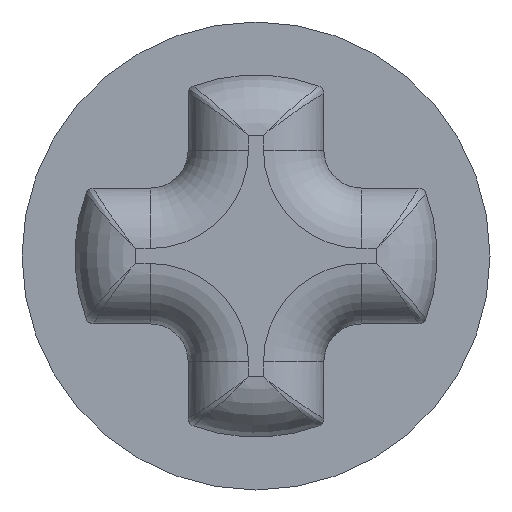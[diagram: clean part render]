
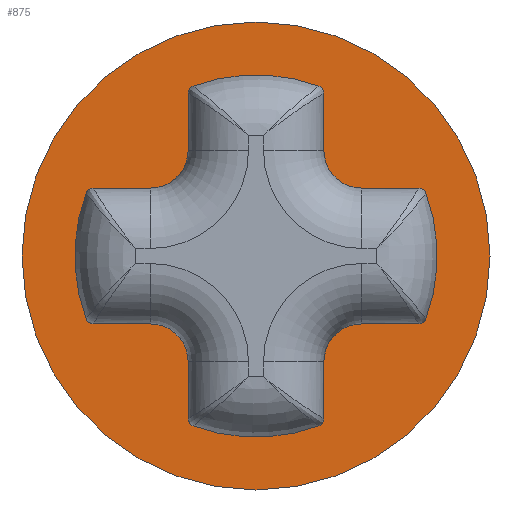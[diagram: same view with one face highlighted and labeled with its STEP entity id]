
A CAD part, left-side view. The second image highlights one B-rep face of the part: STEP entity #875.
In plain terms, the highlighted planar face has unit normal (-1, 0, 0).
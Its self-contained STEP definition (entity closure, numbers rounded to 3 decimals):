
#68=PLANE('',#990);
#73=LINE('',#3573,#121);
#77=LINE('',#3582,#125);
#83=LINE('',#3600,#131);
#87=LINE('',#3609,#135);
#93=LINE('',#3627,#141);
#97=LINE('',#3636,#145);
#103=LINE('',#3654,#151);
#107=LINE('',#3663,#155);
#121=VECTOR('',#1013,1000.);
#125=VECTOR('',#1019,1000.);
#131=VECTOR('',#1033,1000.);
#135=VECTOR('',#1039,1000.);
#141=VECTOR('',#1053,1000.);
#145=VECTOR('',#1059,1000.);
#151=VECTOR('',#1073,1000.);
#155=VECTOR('',#1079,1000.);
#168=CIRCLE('',#897,2.4);
#170=CIRCLE('',#902,2.4);
#172=CIRCLE('',#907,2.4);
#174=CIRCLE('',#912,2.4);
#184=CIRCLE('',#926,0.5);
#186=CIRCLE('',#929,0.5);
#188=CIRCLE('',#932,0.5);
#190=CIRCLE('',#935,0.5);
#192=CIRCLE('',#938,0.1);
#194=CIRCLE('',#941,0.1);
#196=CIRCLE('',#944,0.1);
#198=CIRCLE('',#947,0.1);
#200=CIRCLE('',#950,0.1);
#202=CIRCLE('',#953,0.1);
#204=CIRCLE('',#956,0.1);
#206=CIRCLE('',#959,0.1);
#217=CIRCLE('',#987,3.1);
#431=ORIENTED_EDGE('',*,*,#505,.F.);
#432=ORIENTED_EDGE('',*,*,#554,.T.);
#433=ORIENTED_EDGE('',*,*,#501,.F.);
#434=ORIENTED_EDGE('',*,*,#556,.T.);
#435=ORIENTED_EDGE('',*,*,#497,.F.);
#436=ORIENTED_EDGE('',*,*,#546,.F.);
#437=ORIENTED_EDGE('',*,*,#493,.F.);
#438=ORIENTED_EDGE('',*,*,#558,.T.);
#439=ORIENTED_EDGE('',*,*,#489,.F.);
#440=ORIENTED_EDGE('',*,*,#560,.T.);
#441=ORIENTED_EDGE('',*,*,#485,.F.);
#442=ORIENTED_EDGE('',*,*,#544,.F.);
#443=ORIENTED_EDGE('',*,*,#481,.F.);
#444=ORIENTED_EDGE('',*,*,#562,.T.);
#445=ORIENTED_EDGE('',*,*,#477,.F.);
#446=ORIENTED_EDGE('',*,*,#548,.T.);
#447=ORIENTED_EDGE('',*,*,#521,.F.);
#448=ORIENTED_EDGE('',*,*,#542,.F.);
#449=ORIENTED_EDGE('',*,*,#517,.F.);
#450=ORIENTED_EDGE('',*,*,#550,.T.);
#451=ORIENTED_EDGE('',*,*,#513,.F.);
#452=ORIENTED_EDGE('',*,*,#552,.T.);
#453=ORIENTED_EDGE('',*,*,#509,.F.);
#454=ORIENTED_EDGE('',*,*,#540,.F.);
#455=ORIENTED_EDGE('',*,*,#589,.T.);
#477=EDGE_CURVE('',#603,#604,#168,.T.);
#481=EDGE_CURVE('',#607,#608,#73,.T.);
#485=EDGE_CURVE('',#611,#612,#77,.T.);
#489=EDGE_CURVE('',#615,#616,#170,.T.);
#493=EDGE_CURVE('',#619,#620,#83,.T.);
#497=EDGE_CURVE('',#623,#624,#87,.T.);
#501=EDGE_CURVE('',#627,#628,#172,.T.);
#505=EDGE_CURVE('',#631,#632,#93,.T.);
#509=EDGE_CURVE('',#635,#636,#97,.T.);
#513=EDGE_CURVE('',#639,#640,#174,.T.);
#517=EDGE_CURVE('',#643,#644,#103,.T.);
#521=EDGE_CURVE('',#647,#648,#107,.T.);
#540=EDGE_CURVE('',#632,#635,#184,.F.);
#542=EDGE_CURVE('',#644,#647,#186,.F.);
#544=EDGE_CURVE('',#608,#611,#188,.F.);
#546=EDGE_CURVE('',#620,#623,#190,.F.);
#548=EDGE_CURVE('',#603,#648,#192,.F.);
#550=EDGE_CURVE('',#643,#640,#194,.F.);
#552=EDGE_CURVE('',#639,#636,#196,.F.);
#554=EDGE_CURVE('',#631,#628,#198,.F.);
#556=EDGE_CURVE('',#627,#624,#200,.F.);
#558=EDGE_CURVE('',#619,#616,#202,.F.);
#560=EDGE_CURVE('',#615,#612,#204,.F.);
#562=EDGE_CURVE('',#607,#604,#206,.F.);
#589=EDGE_CURVE('',#667,#667,#217,.T.);
#603=VERTEX_POINT('',#3563);
#604=VERTEX_POINT('',#3565);
#607=VERTEX_POINT('',#3572);
#608=VERTEX_POINT('',#3574);
#611=VERTEX_POINT('',#3581);
#612=VERTEX_POINT('',#3583);
#615=VERTEX_POINT('',#3590);
#616=VERTEX_POINT('',#3592);
#619=VERTEX_POINT('',#3599);
#620=VERTEX_POINT('',#3601);
#623=VERTEX_POINT('',#3608);
#624=VERTEX_POINT('',#3610);
#627=VERTEX_POINT('',#3617);
#628=VERTEX_POINT('',#3619);
#631=VERTEX_POINT('',#3626);
#632=VERTEX_POINT('',#3628);
#635=VERTEX_POINT('',#3635);
#636=VERTEX_POINT('',#3637);
#639=VERTEX_POINT('',#3644);
#640=VERTEX_POINT('',#3646);
#643=VERTEX_POINT('',#3653);
#644=VERTEX_POINT('',#3655);
#647=VERTEX_POINT('',#3662);
#648=VERTEX_POINT('',#3664);
#667=VERTEX_POINT('',#3965);
#730=EDGE_LOOP('',(#431,#432,#433,#434,#435,#436,#437,#438,#439,#440,#441,
#442,#443,#444,#445,#446,#447,#448,#449,#450,#451,#452,#453,#454));
#731=EDGE_LOOP('',(#455));
#790=FACE_BOUND('',#730,.T.);
#791=FACE_BOUND('',#731,.T.);
#875=ADVANCED_FACE('',(#790,#791),#68,.T.);
#897=AXIS2_PLACEMENT_3D('',#3564,#1005,#1006);
#902=AXIS2_PLACEMENT_3D('',#3591,#1025,#1026);
#907=AXIS2_PLACEMENT_3D('',#3618,#1045,#1046);
#912=AXIS2_PLACEMENT_3D('',#3645,#1065,#1066);
#926=AXIS2_PLACEMENT_3D('',#3702,#1110,#1111);
#929=AXIS2_PLACEMENT_3D('',#3705,#1116,#1117);
#932=AXIS2_PLACEMENT_3D('',#3708,#1122,#1123);
#935=AXIS2_PLACEMENT_3D('',#3711,#1128,#1129);
#938=AXIS2_PLACEMENT_3D('',#3714,#1134,#1135);
#941=AXIS2_PLACEMENT_3D('',#3717,#1140,#1141);
#944=AXIS2_PLACEMENT_3D('',#3720,#1146,#1147);
#947=AXIS2_PLACEMENT_3D('',#3723,#1152,#1153);
#950=AXIS2_PLACEMENT_3D('',#3726,#1158,#1159);
#953=AXIS2_PLACEMENT_3D('',#3729,#1164,#1165);
#956=AXIS2_PLACEMENT_3D('',#3732,#1170,#1171);
#959=AXIS2_PLACEMENT_3D('',#3735,#1176,#1177);
#987=AXIS2_PLACEMENT_3D('',#3964,#1232,#1233);
#990=AXIS2_PLACEMENT_3D('',#3980,#1238,#1239);
#1005=DIRECTION('',(-1.,0.,0.));
#1006=DIRECTION('',(0.,-1.,0.));
#1013=DIRECTION('',(0.,0.,-1.));
#1019=DIRECTION('',(0.,1.,0.));
#1025=DIRECTION('',(-1.,0.,0.));
#1026=DIRECTION('',(0.,-1.,0.));
#1033=DIRECTION('',(0.,-1.,0.));
#1039=DIRECTION('',(0.,0.,-1.));
#1045=DIRECTION('',(-1.,0.,0.));
#1046=DIRECTION('',(0.,-1.,0.));
#1053=DIRECTION('',(0.,0.,1.));
#1059=DIRECTION('',(0.,-1.,0.));
#1065=DIRECTION('',(-1.,0.,0.));
#1066=DIRECTION('',(0.,-1.,0.));
#1073=DIRECTION('',(0.,1.,0.));
#1079=DIRECTION('',(0.,0.,1.));
#1110=DIRECTION('',(-1.,0.,0.));
#1111=DIRECTION('',(0.,-1.,0.));
#1116=DIRECTION('',(-1.,0.,0.));
#1117=DIRECTION('',(0.,-1.,0.));
#1122=DIRECTION('',(-1.,0.,0.));
#1123=DIRECTION('',(0.,-1.,0.));
#1128=DIRECTION('',(-1.,0.,0.));
#1129=DIRECTION('',(0.,-1.,0.));
#1134=DIRECTION('',(-1.,0.,0.));
#1135=DIRECTION('',(0.,-1.,0.));
#1140=DIRECTION('',(-1.,0.,0.));
#1141=DIRECTION('',(0.,-1.,0.));
#1146=DIRECTION('',(-1.,0.,0.));
#1147=DIRECTION('',(0.,-1.,0.));
#1152=DIRECTION('',(-1.,0.,0.));
#1153=DIRECTION('',(0.,-1.,0.));
#1158=DIRECTION('',(-1.,0.,0.));
#1159=DIRECTION('',(0.,-1.,0.));
#1164=DIRECTION('',(-1.,0.,0.));
#1165=DIRECTION('',(0.,-1.,0.));
#1170=DIRECTION('',(-1.,0.,0.));
#1171=DIRECTION('',(0.,-1.,0.));
#1176=DIRECTION('',(-1.,0.,0.));
#1177=DIRECTION('',(0.,-1.,0.));
#1232=DIRECTION('',(-1.,0.,0.));
#1233=DIRECTION('',(0.,1.,0.));
#1238=DIRECTION('',(-1.,0.,0.));
#1239=DIRECTION('',(0.,-1.,0.));
#3563=CARTESIAN_POINT('',(0.,-0.834,2.25));
#3564=CARTESIAN_POINT('',(0.,0.,0.));
#3565=CARTESIAN_POINT('',(0.,0.834,2.25));
#3572=CARTESIAN_POINT('',(0.,0.899,2.157));
#3573=CARTESIAN_POINT('',(0.,0.899,2.225));
#3574=CARTESIAN_POINT('',(0.,0.899,1.4));
#3581=CARTESIAN_POINT('',(0.,1.399,0.9));
#3582=CARTESIAN_POINT('',(0.,2.225,0.9));
#3583=CARTESIAN_POINT('',(0.,2.156,0.9));
#3590=CARTESIAN_POINT('',(0.,2.25,0.835));
#3591=CARTESIAN_POINT('',(0.,0.,0.));
#3592=CARTESIAN_POINT('',(0.,2.25,-0.835));
#3599=CARTESIAN_POINT('',(0.,2.156,-0.9));
#3600=CARTESIAN_POINT('',(0.,0.899,-0.9));
#3601=CARTESIAN_POINT('',(0.,1.399,-0.9));
#3608=CARTESIAN_POINT('',(0.,0.899,-1.4));
#3609=CARTESIAN_POINT('',(0.,0.899,-0.9));
#3610=CARTESIAN_POINT('',(0.,0.899,-2.157));
#3617=CARTESIAN_POINT('',(0.,0.834,-2.25));
#3618=CARTESIAN_POINT('',(0.,0.,0.));
#3619=CARTESIAN_POINT('',(0.,-0.834,-2.25));
#3626=CARTESIAN_POINT('',(0.,-0.899,-2.157));
#3627=CARTESIAN_POINT('',(0.,-0.899,-2.225));
#3628=CARTESIAN_POINT('',(0.,-0.899,-1.4));
#3635=CARTESIAN_POINT('',(0.,-1.399,-0.9));
#3636=CARTESIAN_POINT('',(0.,-2.225,-0.9));
#3637=CARTESIAN_POINT('',(0.,-2.156,-0.9));
#3644=CARTESIAN_POINT('',(0.,-2.25,-0.835));
#3645=CARTESIAN_POINT('',(0.,0.,0.));
#3646=CARTESIAN_POINT('',(0.,-2.25,0.835));
#3653=CARTESIAN_POINT('',(0.,-2.156,0.9));
#3654=CARTESIAN_POINT('',(0.,-0.899,0.9));
#3655=CARTESIAN_POINT('',(0.,-1.399,0.9));
#3662=CARTESIAN_POINT('',(0.,-0.899,1.4));
#3663=CARTESIAN_POINT('',(0.,-0.899,0.9));
#3664=CARTESIAN_POINT('',(0.,-0.899,2.157));
#3702=CARTESIAN_POINT('',(0.,-1.399,-1.4));
#3705=CARTESIAN_POINT('',(0.,-1.399,1.4));
#3708=CARTESIAN_POINT('',(0.,1.399,1.4));
#3711=CARTESIAN_POINT('',(0.,1.399,-1.4));
#3714=CARTESIAN_POINT('',(0.,-0.799,2.157));
#3717=CARTESIAN_POINT('',(0.,-2.156,0.8));
#3720=CARTESIAN_POINT('',(0.,-2.156,-0.8));
#3723=CARTESIAN_POINT('',(0.,-0.799,-2.157));
#3726=CARTESIAN_POINT('',(0.,0.799,-2.157));
#3729=CARTESIAN_POINT('',(0.,2.156,-0.8));
#3732=CARTESIAN_POINT('',(0.,2.156,0.8));
#3735=CARTESIAN_POINT('',(0.,0.799,2.157));
#3964=CARTESIAN_POINT('',(0.,0.,0.));
#3965=CARTESIAN_POINT('',(0.,3.1,0.));
#3980=CARTESIAN_POINT('',(0.,0.,0.));
